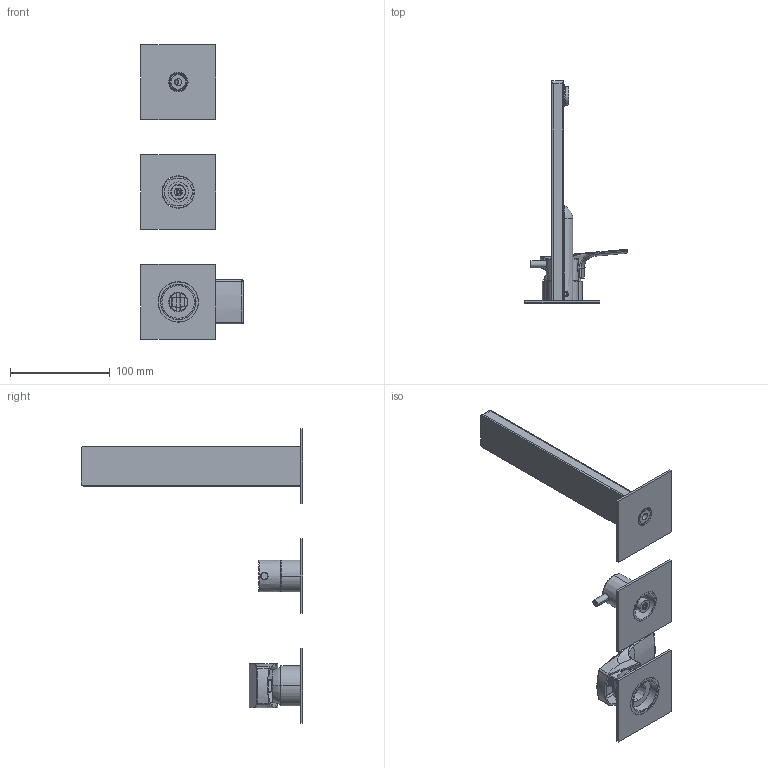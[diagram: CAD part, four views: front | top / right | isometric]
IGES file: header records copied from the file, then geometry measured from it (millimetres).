
Start section:  PTC IGES file: 3d_sw0001.igs
Global section: file name: 3d_sw0001.igs; native system: Creo Parametric by PTC Inc.; preprocessor: 2022014; author: volponeff; organization: Unknown; date: 20240930.114829; units: millimetre
Bounding box: 102.5 x 222 x 295 mm (x, y, z)
Surface area: 117733.9 mm2 (no closed solid volume)
Topology: 0 solids, 0 shells, 1321 faces, 7205 edges, 7176 vertices
Faces by surface type: revolution 773, bspline 548
